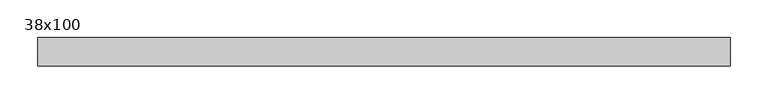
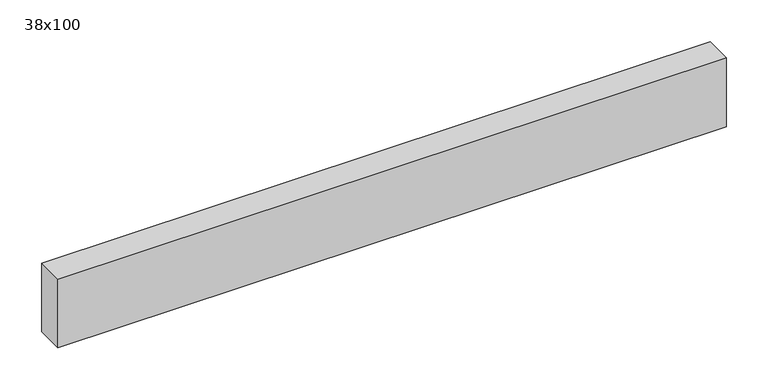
"""IFC4 building model written with IfcOpenShell, lengths in millimetres: beam geometry, Poutre - Bois de construction de dimensions courantes : 38x100."""

import ifcopenshell
import ifcopenshell.guid

model = None  # the IFC model being written
_history = None  # IfcOwnerHistory: only IFC2X3 demands one
_inside = {}  # id of a spatial element -> (the spatial element, [elements in it])
_under = {}  # id of a project, library or spatial element -> (it, [spatial elements below it])
_declared = {}  # id of a project -> (the project, [libraries it declares])
_typed = {}  # id of a type object -> (the type object, [elements of that type])
_made_of = {}  # id of a material, layer set ... -> (it, [elements and type objects made of it])


def new_model(schema):
    """Start an empty IFC model of exactly this schema.

    Asked for "IFC4X3", IfcOpenShell would pick the latest addendum, in which some entities
    have other attributes; the version numbers below select the first issue.
    IFC2X3 requires an IfcOwnerHistory on every rooted entity: one is made here for all.
    """
    global model, _history
    if schema == "IFC4X3":
        model = ifcopenshell.file(schema_version=(4, 3, 0, 0))
    else:
        model = ifcopenshell.file(schema=schema)
    _inside.clear()
    _under.clear()
    _declared.clear()
    _typed.clear()
    _made_of.clear()
    _history = None
    if model.schema == "IFC2X3":
        org = make("IfcOrganization", Name="unknown")
        user = make(
            "IfcPersonAndOrganization",
            ThePerson=make("IfcPerson", FamilyName="unknown"),
            TheOrganization=org,
        )
        app = make(
            "IfcApplication",
            ApplicationDeveloper=org,
            Version="unknown",
            ApplicationFullName="unknown",
            ApplicationIdentifier="unknown",
        )
        _history = make(
            "IfcOwnerHistory",
            OwningUser=user,
            OwningApplication=app,
            ChangeAction="ADDED",
            CreationDate=0,
        )
    return model


def make(cls, **values):
    """One entity of the class cls with the attributes given. An attribute that is None is left unset."""
    return model.create_entity(
        cls, **{name: value for name, value in values.items() if value is not None}
    )


def rooted(cls, **values):
    """An entity with a GlobalId (a new one), such as an element, a storey or a relation."""
    return make(cls, GlobalId=ifcopenshell.guid.new(), OwnerHistory=_history, **values)


def si_unit(unit_type, name, prefix=None):
    """IfcSIUnit, for example si_unit("LENGTHUNIT", "METRE", prefix="MILLI")."""
    return make("IfcSIUnit", UnitType=unit_type, Prefix=prefix, Name=name)


def assignment(units):
    """IfcUnitAssignment: the units of a project."""
    return None if units is None else make("IfcUnitAssignment", Units=units)


def point(xyz):
    """IfcCartesianPoint."""
    return None if xyz is None else make("IfcCartesianPoint", Coordinates=xyz)


def direction(xyz):
    """IfcDirection."""
    return None if xyz is None else make("IfcDirection", DirectionRatios=xyz)


def frame(location, z_axis=None, x_axis=None):
    """IfcAxis2Placement3D, a coordinate frame: its origin and axes. An axis left out is left unset."""
    return make(
        "IfcAxis2Placement3D",
        Location=point(location),
        Axis=direction(z_axis),
        RefDirection=direction(x_axis),
    )


def origin():
    """The frame at (0, 0, 0) with its axes left unset."""
    return frame((0.0, 0.0, 0.0))


def place(relative_to, where):
    """IfcLocalPlacement: puts the frame where relative to a parent placement (None: the world)."""
    return make(
        "IfcLocalPlacement", PlacementRelTo=relative_to, RelativePlacement=where
    )


def context(
    kind, dimensions, precision=None, world=None, true_north=None, identifier=None
):
    """IfcGeometricRepresentationContext, for example the 3D "Model" context."""
    return make(
        "IfcGeometricRepresentationContext",
        ContextIdentifier=identifier,
        ContextType=kind,
        CoordinateSpaceDimension=dimensions,
        Precision=precision,
        WorldCoordinateSystem=world,
        TrueNorth=true_north,
    )


def project(units=None, contexts=None):
    """IfcProject with its units and contexts."""
    return rooted(
        "IfcProject",
        Name="project",
        RepresentationContexts=contexts,
        UnitsInContext=assignment(units),
    )


def spatial(cls, under=None, at=None, **own):
    """A site, building, storey or space (cls), placed at a placement, below another one or the project."""
    s = rooted(cls, ObjectPlacement=at, **own)
    if under is not None:
        _under.setdefault(under.id(), (under, []))[1].append(s)
    return s


def polyline(points):
    """IfcPolyline through the points."""
    return make("IfcPolyline", Points=[point(p) for p in points])


def outline(outer, holes=None, kind="AREA"):
    """IfcArbitraryClosedProfileDef: a profile drawn as a closed curve; with holes, ...WithVoids."""
    if holes is None:
        return make("IfcArbitraryClosedProfileDef", ProfileType=kind, OuterCurve=outer)
    return make(
        "IfcArbitraryProfileDefWithVoids",
        ProfileType=kind,
        OuterCurve=outer,
        InnerCurves=holes,
    )


def extrude(swept, where, along, depth):
    """IfcExtrudedAreaSolid: the profile swept, set in the frame where, extruded along a direction by depth."""
    return make(
        "IfcExtrudedAreaSolid",
        SweptArea=swept,
        Position=where,
        ExtrudedDirection=direction(along),
        Depth=depth,
    )


def shape(context_of_items, identifier, shape_type, items):
    """IfcShapeRepresentation: the items that make up one representation, for example the "Body"."""
    return make(
        "IfcShapeRepresentation",
        ContextOfItems=context_of_items,
        RepresentationIdentifier=identifier,
        RepresentationType=shape_type,
        Items=items,
    )


def source(mapping_origin, context_of_items, identifier, shape_type, items):
    """IfcRepresentationMap: a shape defined once, which mapped items show again and again."""
    return make(
        "IfcRepresentationMap",
        MappingOrigin=mapping_origin,
        MappedRepresentation=shape(context_of_items, identifier, shape_type, items),
    )


def transform(
    local_origin,
    x_axis=None,
    y_axis=None,
    z_axis=None,
    scale=None,
    scale2=None,
    scale3=None,
    uniform=True,
):
    """IfcCartesianTransformationOperator3D, or its non-uniform kind. x_axis, y_axis, z_axis: its Axis1, 2, 3."""
    if uniform:
        return make(
            "IfcCartesianTransformationOperator3D",
            Axis1=direction(x_axis),
            Axis2=direction(y_axis),
            LocalOrigin=point(local_origin),
            Scale=scale,
            Axis3=direction(z_axis),
        )
    return make(
        "IfcCartesianTransformationOperator3DnonUniform",
        Axis1=direction(x_axis),
        Axis2=direction(y_axis),
        LocalOrigin=point(local_origin),
        Scale=scale,
        Axis3=direction(z_axis),
        Scale2=scale2,
        Scale3=scale3,
    )


def mapped(mapping_source, mapping_target):
    """IfcMappedItem: shows the shape of a source again, moved by a transform."""
    return make(
        "IfcMappedItem", MappingSource=mapping_source, MappingTarget=mapping_target
    )


def made_of(thing, what):
    """Note that an element or type object is made of a material, layer set ...; save() writes the relation."""
    if what is not None:
        _made_of.setdefault(what.id(), (what, []))[1].append(thing)
    return thing


def element(
    cls,
    number,
    at=None,
    inside=None,
    cuts=None,
    type_object=None,
    material=None,
    context=None,
    identifier="Body",
    shape_type=None,
    held_by="IfcProductDefinitionShape",
    body=None,
    shapes=None,
    **own,
):
    """One element of the class cls, such as IfcWall. Its Tag is "e" and its number.

    at: its placement. inside: the storey or other place that contains it. cuts: it is an
    opening in that element (IfcRelVoidsElement). A single representation is given by context,
    identifier, shape_type and body (its items); several are given by shapes. held_by: the class
    of the entity that holds the representations. save() writes the other relations.
    """
    e = rooted(cls, Tag="e%d" % number, ObjectPlacement=at, **own)
    if body is not None:
        shapes = [shape(context, identifier, shape_type, body)]
    if shapes is not None:
        e.Representation = make(held_by, Representations=shapes)
    if inside is not None:
        _inside.setdefault(inside.id(), (inside, []))[1].append(e)
    if cuts is not None:
        rooted(
            "IfcRelVoidsElement", RelatingBuildingElement=cuts, RelatedOpeningElement=e
        )
    if type_object is not None:
        _typed.setdefault(type_object.id(), (type_object, []))[1].append(e)
    return made_of(e, material)


def aggregate(whole, parts):
    """IfcRelAggregates: a whole, such as a stair, and the parts it consists of."""
    return rooted("IfcRelAggregates", RelatingObject=whole, RelatedObjects=parts)


def save(model, path):
    """Write the relations noted so far, then the file.

    IfcRelAggregates (storeys below a building ...), IfcRelContainedInSpatialStructure (elements
    in a storey), IfcRelDefinesByType, IfcRelAssociatesMaterial and IfcRelDeclares: one each for
    every whole, place, type object, material and project.
    """
    for whole, parts in _under.values():
        aggregate(whole, parts)
    for where, things in _inside.values():
        rooted(
            "IfcRelContainedInSpatialStructure",
            RelatedElements=things,
            RelatingStructure=where,
        )
    for kind, things in _typed.values():
        rooted("IfcRelDefinesByType", RelatedObjects=things, RelatingType=kind)
    for what, things in _made_of.values():
        rooted("IfcRelAssociatesMaterial", RelatedObjects=things, RelatingMaterial=what)
    for by, libraries in _declared.values():
        rooted("IfcRelDeclares", RelatingContext=by, RelatedDefinitions=libraries)
    model.write(path)


def beam_38x100_56b8f87b(model_context):
    return source(origin(), model_context, "Body", "SweptSolid", [
        extrude(outline(polyline([(379.5, 19.05), (379.5, -19.05), (-539.5, -19.05), (-539.5, 19.05), (379.5, 19.05)])), frame((0.0, 0.0, -50.0), z_axis=(0.0, 0.0, 1.0), x_axis=(1.0, 0.0, 0.0)), (0.0, 0.0, 1.0), 100.0),
    ])


if __name__ == "__main__":
    model = new_model("IFC4")
    model_context = context("Model", 3, world=origin())
    ifc_project = project(units=[si_unit("LENGTHUNIT", "METRE", prefix="MILLI")], contexts=[model_context])
    site = spatial("IfcSite", under=ifc_project)
    building = spatial("IfcBuilding", under=site)
    placement = place(None, origin())
    beam_38x100_shape = beam_38x100_56b8f87b(model_context)
    element("IfcBeam", 1, ObjectType="Poutre - Bois de construction de dimensions courantes : 38x100", at=placement, inside=building, context=model_context, shape_type="MappedRepresentation", body=[
        mapped(beam_38x100_shape, transform((0.0, 0.0, 0.0), x_axis=(1.0, 0.0, 0.0), y_axis=(0.0, 1.0, 0.0), z_axis=(0.0, 0.0, 1.0))),
    ])
    save(model, "model.ifc")
